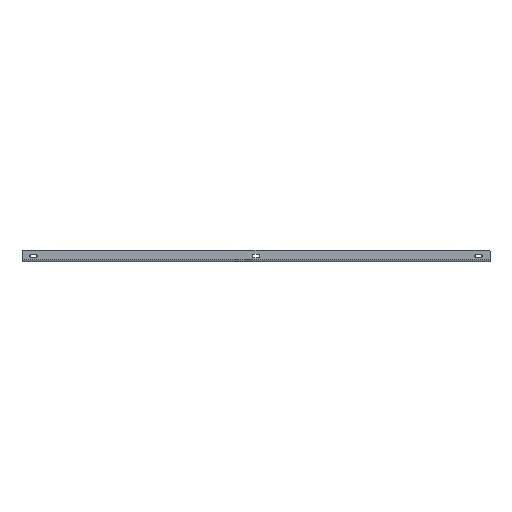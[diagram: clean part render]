
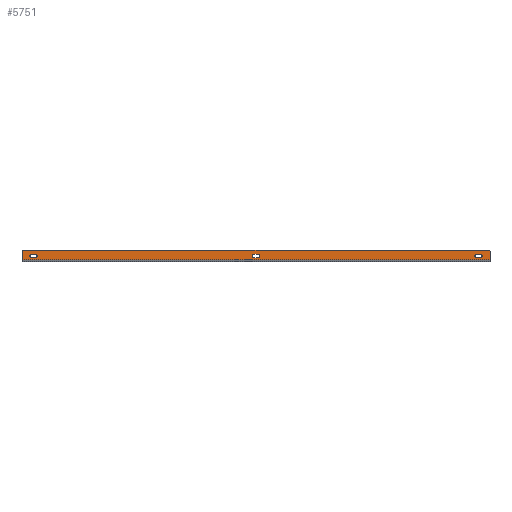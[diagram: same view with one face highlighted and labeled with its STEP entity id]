
A CAD part, top view. The second image highlights one B-rep face of the part: STEP entity #5751.
In plain terms, the highlighted planar face has unit normal (0, 0, 1).
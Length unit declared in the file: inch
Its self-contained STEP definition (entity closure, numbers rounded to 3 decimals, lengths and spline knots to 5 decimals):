
#1103=DIRECTION('',(-1.,0.,0.));
#1104=VECTOR('',#1103,61.25);
#1105=CARTESIAN_POINT('',(0.,0.25,0.));
#1106=LINE('',#1105,#1104);
#2266=CARTESIAN_POINT('',(-0.13,1.37,0.));
#2267=DIRECTION('',(0.,0.,1.));
#2268=DIRECTION('',(1.,0.,0.));
#2269=AXIS2_PLACEMENT_3D('',#2266,#2267,#2268);
#2271=CARTESIAN_POINT('',(-61.12,1.37,0.));
#2272=DIRECTION('',(0.,0.,1.));
#2273=DIRECTION('',(0.,1.,0.));
#2274=AXIS2_PLACEMENT_3D('',#2271,#2272,#2273);
#2276=DIRECTION('',(-1.,0.,0.));
#2277=VECTOR('',#2276,60.99);
#2278=CARTESIAN_POINT('',(-0.13,1.5,0.));
#2279=LINE('',#2278,#2277);
#2280=CARTESIAN_POINT('',(-59.4685,0.75,0.));
#2281=DIRECTION('',(0.,0.,-1.));
#2282=DIRECTION('',(0.,1.,0.));
#2283=AXIS2_PLACEMENT_3D('',#2280,#2281,#2282);
#2285=CARTESIAN_POINT('',(-60.0315,0.75,0.));
#2286=DIRECTION('',(0.,0.,-1.));
#2287=DIRECTION('',(0.,-1.,0.));
#2288=AXIS2_PLACEMENT_3D('',#2285,#2286,#2287);
#2290=CARTESIAN_POINT('',(-30.3435,0.75,0.));
#2291=DIRECTION('',(0.,0.,-1.));
#2292=DIRECTION('',(0.,1.,0.));
#2293=AXIS2_PLACEMENT_3D('',#2290,#2291,#2292);
#2295=CARTESIAN_POINT('',(-30.9065,0.75,0.));
#2296=DIRECTION('',(0.,0.,-1.));
#2297=DIRECTION('',(0.,-1.,0.));
#2298=AXIS2_PLACEMENT_3D('',#2295,#2296,#2297);
#2300=CARTESIAN_POINT('',(-1.2185,0.75,0.));
#2301=DIRECTION('',(0.,0.,-1.));
#2302=DIRECTION('',(0.,1.,0.));
#2303=AXIS2_PLACEMENT_3D('',#2300,#2301,#2302);
#2305=CARTESIAN_POINT('',(-1.7815,0.75,0.));
#2306=DIRECTION('',(0.,0.,-1.));
#2307=DIRECTION('',(0.,-1.,0.));
#2308=AXIS2_PLACEMENT_3D('',#2305,#2306,#2307);
#2318=DIRECTION('',(0.,-1.,0.));
#2319=VECTOR('',#2318,1.12);
#2320=CARTESIAN_POINT('',(0.,1.37,0.));
#2321=LINE('',#2320,#2319);
#2326=DIRECTION('',(0.,-1.,0.));
#2327=VECTOR('',#2326,1.12);
#2328=CARTESIAN_POINT('',(-61.25,1.37,0.));
#2329=LINE('',#2328,#2327);
#2346=DIRECTION('',(-1.,0.,0.));
#2347=VECTOR('',#2346,0.563);
#2348=CARTESIAN_POINT('',(-59.4685,0.5315,0.));
#2349=LINE('',#2348,#2347);
#2362=DIRECTION('',(1.,0.,0.));
#2363=VECTOR('',#2362,0.563);
#2364=CARTESIAN_POINT('',(-60.0315,0.9685,0.));
#2365=LINE('',#2364,#2363);
#2378=DIRECTION('',(-1.,0.,0.));
#2379=VECTOR('',#2378,0.563);
#2380=CARTESIAN_POINT('',(-30.3435,0.5315,0.));
#2381=LINE('',#2380,#2379);
#2394=DIRECTION('',(1.,0.,0.));
#2395=VECTOR('',#2394,0.563);
#2396=CARTESIAN_POINT('',(-30.9065,0.9685,0.));
#2397=LINE('',#2396,#2395);
#2410=DIRECTION('',(-1.,0.,0.));
#2411=VECTOR('',#2410,0.563);
#2412=CARTESIAN_POINT('',(-1.2185,0.5315,0.));
#2413=LINE('',#2412,#2411);
#2426=DIRECTION('',(1.,0.,0.));
#2427=VECTOR('',#2426,0.563);
#2428=CARTESIAN_POINT('',(-1.7815,0.9685,0.));
#2429=LINE('',#2428,#2427);
#3286=CARTESIAN_POINT('',(0.,0.25,0.));
#3287=CARTESIAN_POINT('',(-61.25,0.25,0.));
#3288=VERTEX_POINT('',#3286);
#3289=VERTEX_POINT('',#3287);
#3306=CARTESIAN_POINT('',(0.,1.37,0.));
#3307=CARTESIAN_POINT('',(-0.13,1.5,0.));
#3308=VERTEX_POINT('',#3306);
#3309=VERTEX_POINT('',#3307);
#3322=CARTESIAN_POINT('',(-61.12,1.5,0.));
#3323=CARTESIAN_POINT('',(-61.25,1.37,0.));
#3324=VERTEX_POINT('',#3322);
#3325=VERTEX_POINT('',#3323);
#4170=CARTESIAN_POINT('',(-60.0315,0.5315,0.));
#4171=CARTESIAN_POINT('',(-60.0315,0.9685,0.));
#4172=VERTEX_POINT('',#4170);
#4173=VERTEX_POINT('',#4171);
#4174=CARTESIAN_POINT('',(-59.4685,0.9685,0.));
#4175=CARTESIAN_POINT('',(-59.4685,0.5315,0.));
#4176=VERTEX_POINT('',#4174);
#4177=VERTEX_POINT('',#4175);
#4186=CARTESIAN_POINT('',(-30.9065,0.5315,0.));
#4187=CARTESIAN_POINT('',(-30.9065,0.9685,0.));
#4188=VERTEX_POINT('',#4186);
#4189=VERTEX_POINT('',#4187);
#4190=CARTESIAN_POINT('',(-30.3435,0.9685,0.));
#4191=CARTESIAN_POINT('',(-30.3435,0.5315,0.));
#4192=VERTEX_POINT('',#4190);
#4193=VERTEX_POINT('',#4191);
#4202=CARTESIAN_POINT('',(-1.7815,0.5315,0.));
#4203=CARTESIAN_POINT('',(-1.7815,0.9685,0.));
#4204=VERTEX_POINT('',#4202);
#4205=VERTEX_POINT('',#4203);
#4206=CARTESIAN_POINT('',(-1.2185,0.9685,0.));
#4207=CARTESIAN_POINT('',(-1.2185,0.5315,0.));
#4208=VERTEX_POINT('',#4206);
#4209=VERTEX_POINT('',#4207);
#5704=CARTESIAN_POINT('',(0.,1.5,0.));
#5705=DIRECTION('',(0.,0.,1.));
#5706=DIRECTION('',(0.,-1.,0.));
#5707=AXIS2_PLACEMENT_3D('',#5704,#5705,#5706);
#5708=PLANE('',#5707);
#5709=ORIENTED_EDGE('',*,*,#5694,.F.);
#5711=ORIENTED_EDGE('',*,*,#5710,.T.);
#5712=ORIENTED_EDGE('',*,*,#4920,.T.);
#5714=ORIENTED_EDGE('',*,*,#5713,.F.);
#5716=ORIENTED_EDGE('',*,*,#5715,.F.);
#5718=ORIENTED_EDGE('',*,*,#5717,.F.);
#5719=EDGE_LOOP('',(#5709,#5711,#5712,#5714,#5716,#5718));
#5720=FACE_OUTER_BOUND('',#5719,.F.);
#5722=ORIENTED_EDGE('',*,*,#5721,.F.);
#5724=ORIENTED_EDGE('',*,*,#5723,.F.);
#5726=ORIENTED_EDGE('',*,*,#5725,.F.);
#5728=ORIENTED_EDGE('',*,*,#5727,.F.);
#5729=EDGE_LOOP('',(#5722,#5724,#5726,#5728));
#5730=FACE_BOUND('',#5729,.F.);
#5732=ORIENTED_EDGE('',*,*,#5731,.F.);
#5734=ORIENTED_EDGE('',*,*,#5733,.F.);
#5736=ORIENTED_EDGE('',*,*,#5735,.F.);
#5738=ORIENTED_EDGE('',*,*,#5737,.F.);
#5739=EDGE_LOOP('',(#5732,#5734,#5736,#5738));
#5740=FACE_BOUND('',#5739,.F.);
#5742=ORIENTED_EDGE('',*,*,#5741,.F.);
#5744=ORIENTED_EDGE('',*,*,#5743,.F.);
#5746=ORIENTED_EDGE('',*,*,#5745,.F.);
#5748=ORIENTED_EDGE('',*,*,#5747,.F.);
#5749=EDGE_LOOP('',(#5742,#5744,#5746,#5748));
#5750=FACE_BOUND('',#5749,.F.);
#2270=CIRCLE('',#2269,0.13);
#2275=CIRCLE('',#2274,0.13);
#2284=CIRCLE('',#2283,0.2185);
#2289=CIRCLE('',#2288,0.2185);
#2294=CIRCLE('',#2293,0.2185);
#2299=CIRCLE('',#2298,0.2185);
#2304=CIRCLE('',#2303,0.2185);
#2309=CIRCLE('',#2308,0.2185);
#4920=EDGE_CURVE('',#3288,#3289,#1106,.T.);
#5694=EDGE_CURVE('',#3308,#3309,#2270,.T.);
#5710=EDGE_CURVE('',#3308,#3288,#2321,.T.);
#5713=EDGE_CURVE('',#3325,#3289,#2329,.T.);
#5715=EDGE_CURVE('',#3324,#3325,#2275,.T.);
#5717=EDGE_CURVE('',#3309,#3324,#2279,.T.);
#5721=EDGE_CURVE('',#4177,#4172,#2349,.T.);
#5723=EDGE_CURVE('',#4176,#4177,#2284,.T.);
#5725=EDGE_CURVE('',#4173,#4176,#2365,.T.);
#5727=EDGE_CURVE('',#4172,#4173,#2289,.T.);
#5731=EDGE_CURVE('',#4193,#4188,#2381,.T.);
#5733=EDGE_CURVE('',#4192,#4193,#2294,.T.);
#5735=EDGE_CURVE('',#4189,#4192,#2397,.T.);
#5737=EDGE_CURVE('',#4188,#4189,#2299,.T.);
#5741=EDGE_CURVE('',#4209,#4204,#2413,.T.);
#5743=EDGE_CURVE('',#4208,#4209,#2304,.T.);
#5745=EDGE_CURVE('',#4205,#4208,#2429,.T.);
#5747=EDGE_CURVE('',#4204,#4205,#2309,.T.);
#5751=ADVANCED_FACE('',(#5720,#5730,#5740,#5750),#5708,.T.);
